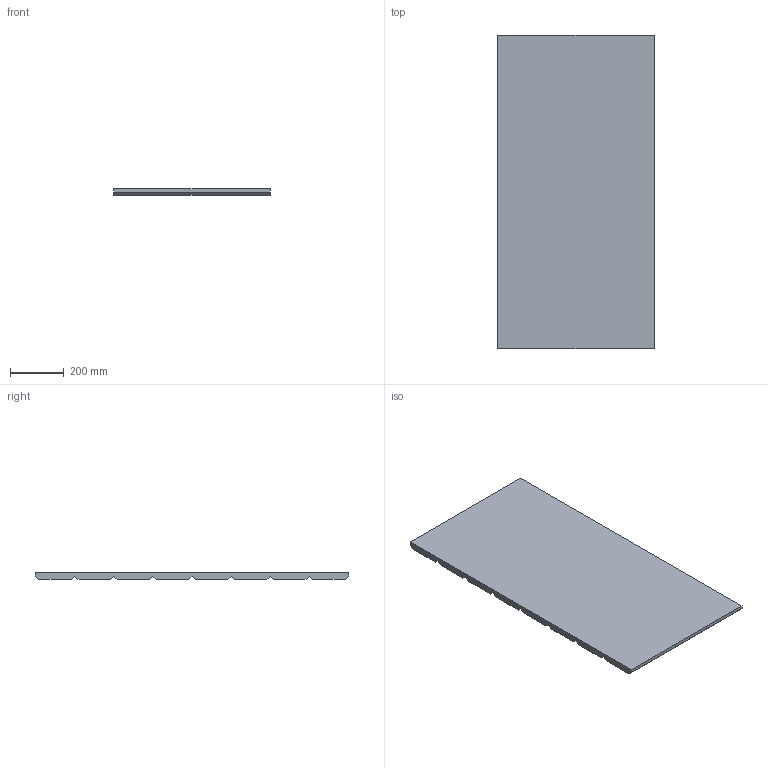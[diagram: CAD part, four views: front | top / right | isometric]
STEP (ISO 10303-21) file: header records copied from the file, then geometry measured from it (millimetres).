
FILE_DESCRIPTION (( 'STEP AP214' ), '1' );
FILE_NAME ('horizontal.STEP', '2015-01-21T17:12:44', ( '' ), ( '' ), 'SwSTEP 2.0', 'SolidWorks 2014', '' );
FILE_SCHEMA (( 'AUTOMOTIVE_DESIGN' ));
Length unit declared in the file: millimetre
Products named in the file (1): horizontal
Bounding box: 580 x 1160 x 25 mm (x, y, z)
Volume: 16095000 mm3; surface area: 1463648.8 mm2
Topology: 1 solids, 1 shells, 29 faces, 81 edges, 54 vertices
Faces by surface type: plane 29
Entity records: 949 total; most frequent: CARTESIAN_POINT 165, ORIENTED_EDGE 162, DIRECTION 141, EDGE_CURVE 81, VECTOR 81, LINE 81, VERTEX_POINT 54, AXIS2_PLACEMENT_3D 30
